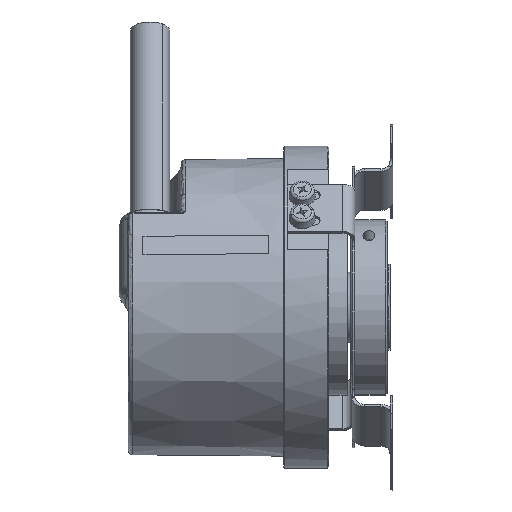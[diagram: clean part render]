
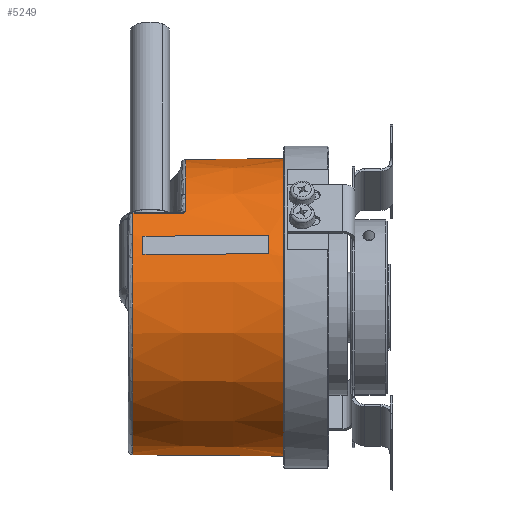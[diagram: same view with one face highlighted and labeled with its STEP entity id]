
A CAD part, front view. The second image highlights one B-rep face of the part: STEP entity #5249.
In plain terms, the highlighted conical face has half-angle 0.5 degrees and reference radius 25.4 mm.
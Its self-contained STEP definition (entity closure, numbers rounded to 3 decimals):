
#3244 = CARTESIAN_POINT ( 'NONE',  ( 5.5, 0., 25.4 ) ) ;
#3245 = DIRECTION ( 'NONE',  ( 1., 0., 0.009 ) ) ;
#3246 = VECTOR ( 'NONE', #3245, 1000. ) ;
#3247 = CARTESIAN_POINT ( 'NONE',  ( 5.5, 0., 25.4 ) ) ;
#3248 = LINE ( 'NONE', #3247, #3246 ) ;
#3249 = CARTESIAN_POINT ( 'NONE',  ( -11.207, 0., 25.254 ) ) ;
#3294 = CARTESIAN_POINT ( 'NONE',  ( 5.5, 0., -25.4 ) ) ;
#3474 = CARTESIAN_POINT ( 'NONE',  ( 3., -23.674, 9.144 ) ) ;
#3520 = DIRECTION ( 'NONE',  ( 0., 0., -1. ) ) ;
#3521 = DIRECTION ( 'NONE',  ( -1., 0., 0. ) ) ;
#3522 = CARTESIAN_POINT ( 'NONE',  ( 3., 0., 0. ) ) ;
#3523 = AXIS2_PLACEMENT_3D ( 'NONE', #3522, #3521, #3520 ) ;
#3524 = CIRCLE ( 'NONE', #3523, 25.378 ) ;
#3526 = CARTESIAN_POINT ( 'NONE',  ( -9.54, -22.124, 12.208 ) ) ;
#3527 = CARTESIAN_POINT ( 'NONE',  ( -3.27, -22.173, 12.232 ) ) ;
#3528 = CARTESIAN_POINT ( 'NONE',  ( 3., -22.222, 12.257 ) ) ;
#3530 = FACE_BOUND ( 'NONE', #7591, .T. ) ;
#3532 = FACE_OUTER_BOUND ( 'NONE', #5250, .T. ) ;
#4288 = AXIS2_PLACEMENT_3D ( 'NONE', #4346, #4345, #4344 ) ;
#4293 = CIRCLE ( 'NONE', #4288, 25.254 ) ;
#4334 = CARTESIAN_POINT ( 'NONE',  ( -20.207, 0., -25.176 ) ) ;
#4335 = DIRECTION ( 'NONE',  ( 1., 0., -0.009 ) ) ;
#4336 = VECTOR ( 'NONE', #4335, 1000. ) ;
#4337 = CARTESIAN_POINT ( 'NONE',  ( 5.5, 0., -25.4 ) ) ;
#4338 = LINE ( 'NONE', #4337, #4336 ) ;
#4343 = CARTESIAN_POINT ( 'NONE',  ( -11.207, -19.272, 16.321 ) ) ;
#4344 = DIRECTION ( 'NONE',  ( 0., 0., 1. ) ) ;
#4345 = DIRECTION ( 'NONE',  ( 1., 0., 0. ) ) ;
#4346 = CARTESIAN_POINT ( 'NONE',  ( -11.207, 0., 0. ) ) ;
#4856 = VERTEX_POINT ( 'NONE', #3249 ) ;
#4858 = EDGE_CURVE ( 'NONE', #4856, #4859, #3248, .T. ) ;
#4859 = VERTEX_POINT ( 'NONE', #3244 ) ;
#4862 = VERTEX_POINT ( 'NONE', #3294 ) ;
#4933 = EDGE_CURVE ( 'NONE', #4856, #4934, #4293, .T. ) ;
#4934 = VERTEX_POINT ( 'NONE', #4343 ) ;
#4939 = EDGE_CURVE ( 'NONE', #4940, #4862, #4338, .T. ) ;
#4940 = VERTEX_POINT ( 'NONE', #4334 ) ;
#5146 = EDGE_CURVE ( 'NONE', #5147, #4940, #5974, .T. ) ;
#5147 = VERTEX_POINT ( 'NONE', #6028 ) ;
#5229 = VERTEX_POINT ( 'NONE', #3474 ) ;
#5230 = ORIENTED_EDGE ( 'NONE', *, *, #5247, .F. ) ;
#5231 = ORIENTED_EDGE ( 'NONE', *, *, #5232, .F. ) ;
#5232 = EDGE_CURVE ( 'NONE', #5229, #5263, #3524, .T. ) ;
#5240 = ORIENTED_EDGE ( 'NONE', *, *, #4858, .F. ) ;
#5241 = ORIENTED_EDGE ( 'NONE', *, *, #4933, .T. ) ;
#5242 = ORIENTED_EDGE ( 'NONE', *, *, #13361, .T. ) ;
#5243 = ORIENTED_EDGE ( 'NONE', *, *, #13440, .T. ) ;
#5244 = ORIENTED_EDGE ( 'NONE', *, *, #5146, .T. ) ;
#5245 = ORIENTED_EDGE ( 'NONE', *, *, #4939, .T. ) ;
#5246 = ORIENTED_EDGE ( 'NONE', *, *, #7590, .F. ) ;
#5247 = EDGE_CURVE ( 'NONE', #5263, #7610, #15896, .T. ) ;
#5249 = ADVANCED_FACE ( 'NONE', ( #3532, #3530 ), #6240, .T. ) ;
#5250 = EDGE_LOOP ( 'NONE', ( #5240, #5241, #5242, #5243, #5244, #5245, #5246 ) ) ;
#5254 = EDGE_CURVE ( 'NONE', #7588, #5229, #6230, .T. ) ;
#5263 = VERTEX_POINT ( 'NONE', #6231 ) ;
#5974 = CIRCLE ( 'NONE', #6032, 25.176 ) ;
#6028 = CARTESIAN_POINT ( 'NONE',  ( -20.207, -19.395, 16.051 ) ) ;
#6029 = DIRECTION ( 'NONE',  ( 0., 0., -1. ) ) ;
#6030 = DIRECTION ( 'NONE',  ( 1., 0., 0. ) ) ;
#6031 = CARTESIAN_POINT ( 'NONE',  ( -20.207, 0., 0. ) ) ;
#6032 = AXIS2_PLACEMENT_3D ( 'NONE', #6031, #6030, #6029 ) ;
#6222 = CARTESIAN_POINT ( 'NONE',  ( 3., -23.674, 9.144 ) ) ;
#6223 = CARTESIAN_POINT ( 'NONE',  ( -3.271, -23.623, 9.123 ) ) ;
#6224 = CARTESIAN_POINT ( 'NONE',  ( -9.541, -23.573, 9.101 ) ) ;
#6225 = CARTESIAN_POINT ( 'NONE',  ( -15.812, -23.522, 9.08 ) ) ;
#6226 = CARTESIAN_POINT ( 'NONE',  ( -16.708, -23.515, 9.077 ) ) ;
#6227 = CARTESIAN_POINT ( 'NONE',  ( -17.604, -23.508, 9.074 ) ) ;
#6228 = CARTESIAN_POINT ( 'NONE',  ( -18.5, -23.501, 9.071 ) ) ;
#6230 = B_SPLINE_CURVE_WITH_KNOTS ( 'NONE', 3,
 ( #6228, #6227, #6226, #6225, #6224, #6223, #6222 ),
 .UNSPECIFIED., .F., .F.,
 ( 4, 3, 4 ),
 ( 0.019, 0.022, 0.041 ),
 .UNSPECIFIED. ) ;
#6231 = CARTESIAN_POINT ( 'NONE',  ( 3., -22.222, 12.257 ) ) ;
#6236 = DIRECTION ( 'NONE',  ( 0., 0., -1. ) ) ;
#6237 = DIRECTION ( 'NONE',  ( 1., 0., 0. ) ) ;
#6238 = CARTESIAN_POINT ( 'NONE',  ( 5.5, 0., 0. ) ) ;
#6239 = AXIS2_PLACEMENT_3D ( 'NONE', #6238, #6237, #6236 ) ;
#6240 = CONICAL_SURFACE ( 'NONE', #6239, 25.4, 0.009 ) ;
#7042 = CARTESIAN_POINT ( 'NONE',  ( -18.5, -23.501, 9.071 ) ) ;
#7087 = DIRECTION ( 'NONE',  ( 0., 0., -1. ) ) ;
#7088 = DIRECTION ( 'NONE',  ( 1., 0., 0. ) ) ;
#7089 = CARTESIAN_POINT ( 'NONE',  ( 5.5, 0., 0. ) ) ;
#7090 = AXIS2_PLACEMENT_3D ( 'NONE', #7089, #7088, #7087 ) ;
#7091 = CIRCLE ( 'NONE', #7090, 25.4 ) ;
#7135 = DIRECTION ( 'NONE',  ( 0., 0., -1. ) ) ;
#7136 = DIRECTION ( 'NONE',  ( -1., 0., 0. ) ) ;
#7137 = CARTESIAN_POINT ( 'NONE',  ( -18.5, 0., 0. ) ) ;
#7138 = AXIS2_PLACEMENT_3D ( 'NONE', #7137, #7136, #7135 ) ;
#7145 = CIRCLE ( 'NONE', #7138, 25.191 ) ;
#7174 = CARTESIAN_POINT ( 'NONE',  ( -18.5, -22.055, 12.172 ) ) ;
#7455 = CARTESIAN_POINT ( 'NONE',  ( -15.81, -22.075, 12.183 ) ) ;
#7588 = VERTEX_POINT ( 'NONE', #7042 ) ;
#7590 = EDGE_CURVE ( 'NONE', #4859, #4862, #7091, .T. ) ;
#7591 = EDGE_LOOP ( 'NONE', ( #7592, #7593, #5230, #5231 ) ) ;
#7592 = ORIENTED_EDGE ( 'NONE', *, *, #5254, .F. ) ;
#7593 = ORIENTED_EDGE ( 'NONE', *, *, #7606, .T. ) ;
#7606 = EDGE_CURVE ( 'NONE', #7588, #7610, #7145, .T. ) ;
#7610 = VERTEX_POINT ( 'NONE', #7174 ) ;
#9980 = CARTESIAN_POINT ( 'NONE',  ( -16.707, -22.068, 12.179 ) ) ;
#10126 = CARTESIAN_POINT ( 'NONE',  ( -17.603, -22.061, 12.176 ) ) ;
#11971 = CARTESIAN_POINT ( 'NONE',  ( -11.918, -19.463, 16.083 ) ) ;
#11972 = CARTESIAN_POINT ( 'NONE',  ( -11.785, -19.464, 16.083 ) ) ;
#11973 = CARTESIAN_POINT ( 'NONE',  ( -11.656, -19.442, 16.111 ) ) ;
#11974 = CARTESIAN_POINT ( 'NONE',  ( -11.418, -19.373, 16.198 ) ) ;
#11975 = CARTESIAN_POINT ( 'NONE',  ( -11.31, -19.325, 16.257 ) ) ;
#11976 = CARTESIAN_POINT ( 'NONE',  ( -11.207, -19.272, 16.321 ) ) ;
#11980 = CARTESIAN_POINT ( 'NONE',  ( -11.918, -19.463, 16.083 ) ) ;
#11981 = B_SPLINE_CURVE_WITH_KNOTS ( 'NONE', 3,
 ( #11976, #11975, #11974, #11973, #11972, #11971 ),
 .UNSPECIFIED., .F., .F.,
 ( 4, 2, 4 ),
 ( 0., 0., 0.001 ),
 .UNSPECIFIED. ) ;
#13204 = CARTESIAN_POINT ( 'NONE',  ( -20.207, -19.395, 16.051 ) ) ;
#13205 = CARTESIAN_POINT ( 'NONE',  ( -18.111, -19.412, 16.059 ) ) ;
#13206 = CARTESIAN_POINT ( 'NONE',  ( -16.015, -19.43, 16.067 ) ) ;
#13207 = CARTESIAN_POINT ( 'NONE',  ( -13.918, -19.447, 16.075 ) ) ;
#13208 = CARTESIAN_POINT ( 'NONE',  ( -13.385, -19.451, 16.077 ) ) ;
#13209 = CARTESIAN_POINT ( 'NONE',  ( -12.852, -19.455, 16.079 ) ) ;
#13210 = CARTESIAN_POINT ( 'NONE',  ( -12.318, -19.46, 16.081 ) ) ;
#13211 = CARTESIAN_POINT ( 'NONE',  ( -12.185, -19.461, 16.082 ) ) ;
#13212 = CARTESIAN_POINT ( 'NONE',  ( -12.052, -19.462, 16.082 ) ) ;
#13213 = CARTESIAN_POINT ( 'NONE',  ( -11.918, -19.463, 16.083 ) ) ;
#13222 = B_SPLINE_CURVE_WITH_KNOTS ( 'NONE', 3,
 ( #13213, #13212, #13211, #13210, #13209, #13208, #13207, #13206, #13205, #13204 ),
 .UNSPECIFIED., .F., .F.,
 ( 4, 3, 3, 4 ),
 ( 0., 0., 0.002, 0.008 ),
 .UNSPECIFIED. ) ;
#13361 = EDGE_CURVE ( 'NONE', #4934, #13362, #11981, .T. ) ;
#13362 = VERTEX_POINT ( 'NONE', #11980 ) ;
#13440 = EDGE_CURVE ( 'NONE', #13362, #5147, #13222, .T. ) ;
#15896 = B_SPLINE_CURVE_WITH_KNOTS ( 'NONE', 3,
 ( #3528, #3527, #3526, #7455, #9980, #10126, #16754 ),
 .UNSPECIFIED., .F., .F.,
 ( 4, 3, 4 ),
 ( 0.003, 0.022, 0.025 ),
 .UNSPECIFIED. ) ;
#16754 = CARTESIAN_POINT ( 'NONE',  ( -18.5, -22.055, 12.172 ) ) ;
